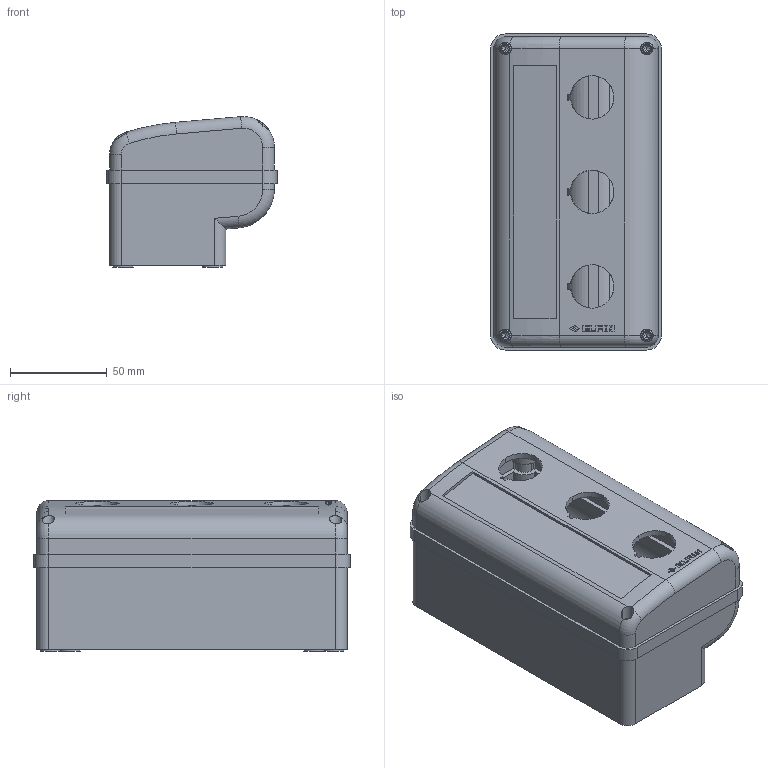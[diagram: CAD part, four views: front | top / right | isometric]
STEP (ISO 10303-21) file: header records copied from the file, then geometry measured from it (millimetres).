
FILE_DESCRIPTION (( 'STEP AP214' ), '1' );
FILE_NAME ('080E160-P3.STEP', '2026-02-09T14:42:57', ( '' ), ( '' ), 'SwSTEP 2.0', 'SolidWorks 2025', '' );
FILE_SCHEMA (( 'AUTOMOTIVE_DESIGN' ));
Length unit declared in the file: millimetre
Products named in the file (5): 080E160-P3; 10209 Vite TC ø3,5x24 Torx T15; 225332 - WEB; 224075A; 225328-P3 - WEB
Assembly tree (7 placements, depth 2):
  080E160-P3
    225332 - WEB
    224075A
    225328-P3 - WEB
    10209 Vite TC ø3,5x24 Torx T15  x4
Bounding box: 88 x 163 x 77.68 mm (x, y, z)
Volume: 181383.9 mm3; surface area: 128437.1 mm2
Topology: 7 solids, 7 shells, 704 faces, 1886 edges, 1223 vertices
Faces by surface type: cylinder 327, plane 276, bspline 38, cone 32, torus 29, sphere 2
Entity records: 18137 total; most frequent: CARTESIAN_POINT 5414, ORIENTED_EDGE 2744, DIRECTION 2491, EDGE_CURVE 1372, VERTEX_POINT 899, AXIS2_PLACEMENT_3D 877, VECTOR 737, LINE 737
